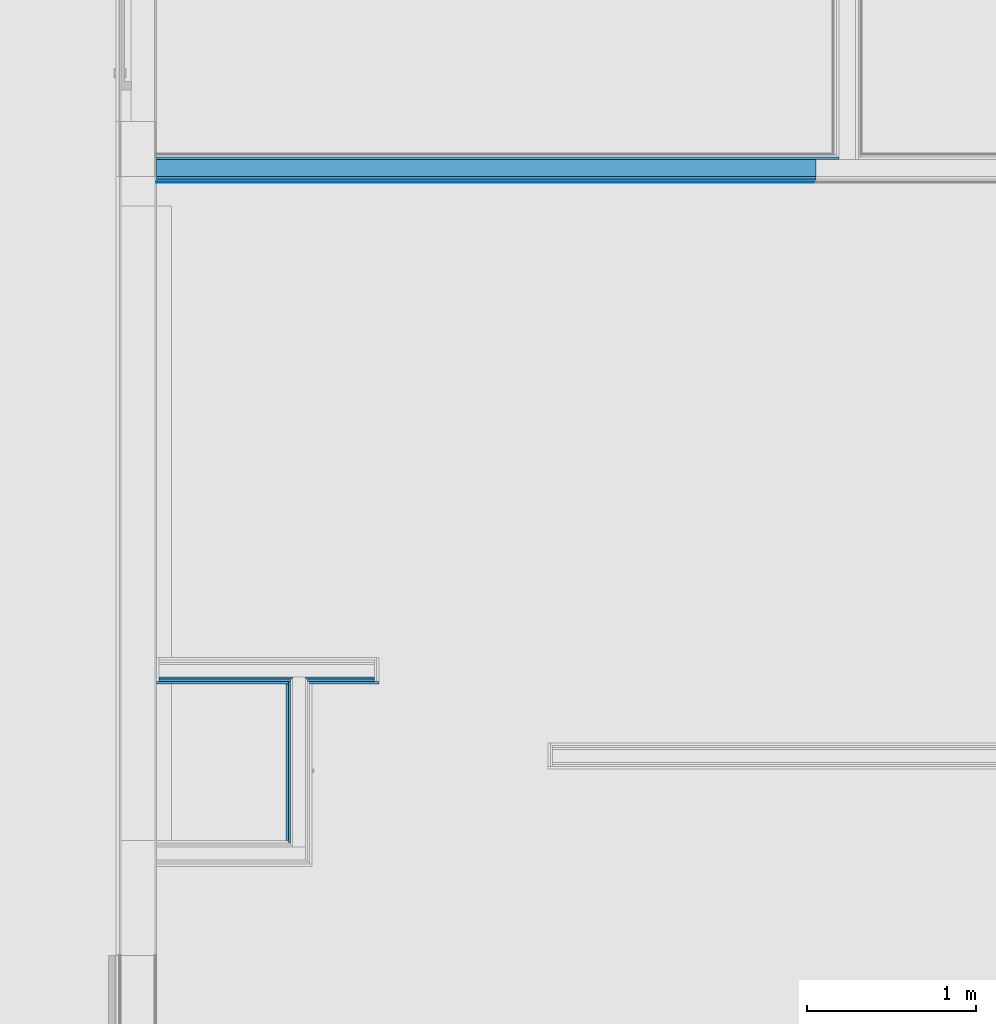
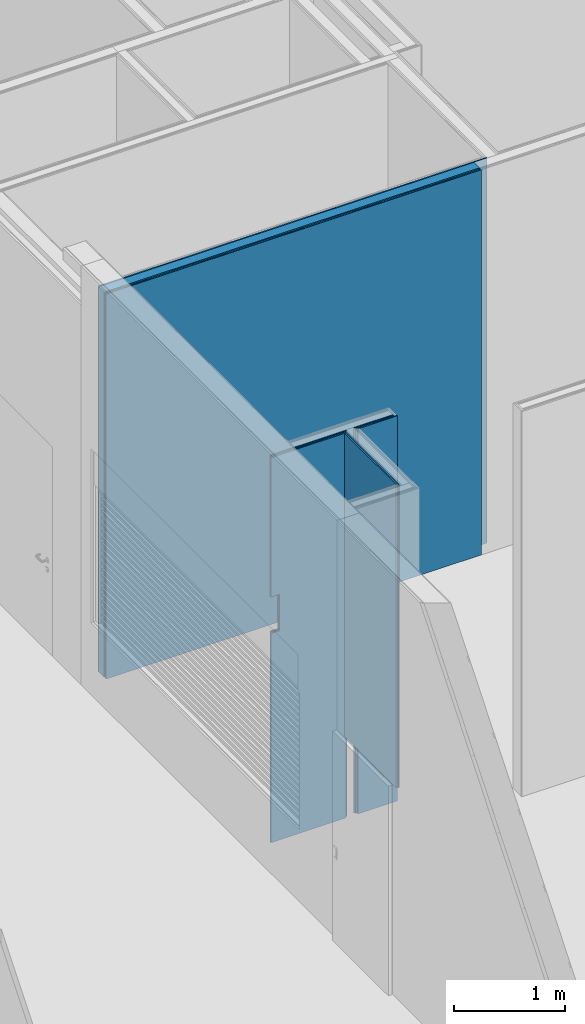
# One storey, part 187 of 260: 10 building element parts, 3 openings, 3 elements without a shape of their own.
"""IFC2X3 building model written with IfcOpenShell, lengths in millimetres."""

from ifc_helpers import new_model, entity, si_unit, converted_unit, derived_unit, money_unit, direction, frame, origin_with_axes, place, context, subcontext, project, spatial, faceted_brep, material, type_object, element, aggregate, save


model = new_model("IFC2X3")

# Units and contexts
model_context = context("Model", 3, precision=0.01, world=origin_with_axes(), true_north=direction((0.0, 1.0)))
body_context = subcontext(model_context, "Body", "Model", "MODEL_VIEW")
ifc_project = project(units=[si_unit("LENGTHUNIT", "METRE", prefix="MILLI"), si_unit("AREAUNIT", "SQUARE_METRE"), si_unit("VOLUMEUNIT", "CUBIC_METRE"), converted_unit("PLANEANGLEUNIT", "DEGREE", entity("IfcPlaneAngleMeasure", 0.0174532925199), si_unit("PLANEANGLEUNIT", "RADIAN"), dimensions=[0, 0, 0, 0, 0, 0, 0]), money_unit("EUR"), converted_unit("TIMEUNIT", "Year", entity("IfcTimeMeasure", 31556926.0), si_unit("TIMEUNIT", "SECOND"), dimensions=[0, 0, 1, 0, 0, 0, 0]), si_unit("MASSUNIT", "GRAM", prefix="KILO"), si_unit("THERMODYNAMICTEMPERATUREUNIT", "DEGREE_CELSIUS"), si_unit("LUMINOUSINTENSITYUNIT", "LUMEN"), si_unit("ENERGYUNIT", "JOULE", prefix="MEGA"), derived_unit("THERMALCONDUCTANCEUNIT", [(si_unit("POWERUNIT", "WATT"), 1), (si_unit("LENGTHUNIT", "METRE"), -1), (si_unit("THERMODYNAMICTEMPERATUREUNIT", "KELVIN"), -1)]), derived_unit("SPECIFICHEATCAPACITYUNIT", [(si_unit("ENERGYUNIT", "JOULE"), 1), (si_unit("MASSUNIT", "GRAM", prefix="KILO"), -1), (si_unit("THERMODYNAMICTEMPERATUREUNIT", "KELVIN"), -1)]), derived_unit("MASSDENSITYUNIT", [(si_unit("MASSUNIT", "GRAM", prefix="KILO"), 1), (si_unit("VOLUMEUNIT", "CUBIC_METRE"), -1)])], contexts=[model_context])

# Site, building, storey
site_placement = place(None, origin_with_axes())
site = spatial("IfcSite", under=ifc_project, at=site_placement, Name="Kolde pst 67a", CompositionType="ELEMENT")
building_placement = place(site_placement, origin_with_axes())
building = spatial("IfcBuilding", under=site, at=building_placement, Name="Riigigümnaasium", CompositionType="ELEMENT")
storey_placement = place(building_placement, origin_with_axes())
storey = spatial("IfcBuildingStorey", under=building, at=storey_placement, Name="1. korrus", CompositionType="ELEMENT", Elevation=0.0)

# Wall, building element parts
wall_type_1 = type_object("IfcWallType", Name="SS-PK-10/9_vill100+2värv 170", PredefinedType="NOTDEFINED")
wall_1_placement = place(storey_placement, frame((52829.9941222, 50890.0003787, 0.0), z_axis=(0.0, 0.0, 1.0), x_axis=(1.0, 0.0, 0.0)))
wall_1 = element("IfcWall", 1, at=wall_1_placement, inside=storey, type_object=wall_type_1, Name="Sisesein")
ifc_material_1 = material(Name="_PLAATMATERJAL - OSB3 plaat")
building_element_part_1_placement = place(wall_1_placement, origin_with_axes())
building_element_part_1 = element("IfcBuildingElementPart", 2, at=building_element_part_1_placement, material=ifc_material_1, Name="_PLAATMATERJAL - OSB3 plaat", context=body_context, shape_type="Brep", body=[
    faceted_brep([(4034.9999888, -35.0, 4230.0), (4034.9999888, -20.0, 4230.0), (0.0, -20.0, 4230.0), (0.0, -35.0, 4230.0), (4034.9999888, -35.0, 0.0), (4034.9999888, -20.0, 0.0), (0.0, -20.0, 0.0), (0.0, -35.0, 0.0)], [[[0, 1, 2, 3]], [[1, 0, 4, 5]], [[1, 5, 6, 2]], [[7, 3, 2, 6]], [[4, 0, 3, 7]], [[5, 4, 7, 6]]]),
])
ifc_material_2 = material(Name="_KARKASS - puitpruss 100x50mm vertikaalne, samm 600mm, vahel mineraalvill, helineeldetegur αw = 1.0, ISOVER ACOUSTIC 100mm või samaväärne")
building_element_part_2_placement = place(wall_1_placement, origin_with_axes())
building_element_part_2 = element("IfcBuildingElementPart", 3, at=building_element_part_2_placement, material=ifc_material_2, Name="_KARKASS - puitpruss 100x50mm vertikaalne, samm 600mm, vahel mineraalvill, helineeldetegur αw = 1.0, ISOVER ACOUSTIC 100mm või samaväärne", context=body_context, shape_type="Brep", body=[
    faceted_brep([(3899.9999888, -135.0, 4230.0), (3899.9999888, -35.0, 4230.0), (0.0, -35.0, 4230.0), (0.0, -135.0, 4230.0), (3899.9999888, -35.0, 0.0), (3899.9999888, -135.0, 0.0), (0.0, -35.0, 0.0), (0.0, -135.0, 0.0)], [[[0, 1, 2, 3]], [[4, 1, 0, 5]], [[1, 4, 6, 2]], [[7, 3, 2, 6]], [[5, 0, 3, 7]], [[4, 5, 7, 6]]]),
])
building_element_part_3_placement = place(wall_1_placement, origin_with_axes())
building_element_part_3 = element("IfcBuildingElementPart", 4, at=building_element_part_3_placement, material=ifc_material_1, Name="_PLAATMATERJAL - OSB3 plaat", context=body_context, shape_type="Brep", body=[
    faceted_brep([(3899.9999888, -150.0, 4230.0), (3899.9999888, -135.0, 4230.0), (0.0, -135.0, 4230.0), (0.0, -150.0, 4230.0), (3899.9999888, -135.0, 0.0), (3899.9999888, -150.0, 0.0), (0.0, -135.0, 0.0), (0.0, -150.0, 0.0)], [[[0, 1, 2, 3]], [[4, 1, 0, 5]], [[1, 4, 6, 2]], [[7, 3, 2, 6]], [[5, 0, 3, 7]], [[4, 5, 7, 6]]]),
])
ifc_material_3 = material(Name="_PLAATMATERJAL - tuletõkkekipsplaat, Knauf Red GKF või samaväärne")
building_element_part_4_placement = place(wall_1_placement, origin_with_axes())
building_element_part_4 = element("IfcBuildingElementPart", 5, at=building_element_part_4_placement, material=ifc_material_3, Name="_PLAATMATERJAL - tuletõkkekipsplaat, Knauf Red GKF või samaväärne", context=body_context, shape_type="Brep", body=[
    faceted_brep([(3899.9999888, -165.0, 4230.0), (3899.9999888, -150.0, 4230.0), (0.0, -150.0, 4230.0), (0.0, -165.0, 4230.0), (3899.9999888, -150.0, 0.0), (3899.9999888, -165.0, 0.0), (0.0, -150.0, 0.0), (0.0, -165.0, 0.0)], [[[0, 1, 2, 3]], [[4, 1, 0, 5]], [[1, 4, 6, 2]], [[7, 3, 2, 6]], [[5, 0, 3, 7]], [[4, 5, 7, 6]]]),
])
ifc_material_4 = material(Name="_VIIMISTLUSKIHT - viimistlus vastavalt SA osale")
building_element_part_5_placement = place(wall_1_placement, origin_with_axes())
building_element_part_5 = element("IfcBuildingElementPart", 6, at=building_element_part_5_placement, material=ifc_material_4, Name="_VIIMISTLUSKIHT - viimistlus vastavalt SA osale", context=body_context, shape_type="Brep", body=[
    faceted_brep([(3899.9999888, -170.0, 4230.0), (3899.9999888, -165.0, 4230.0), (0.0, -165.0, 4230.0), (0.0, -170.0, 4230.0), (3899.9999888, -165.0, 0.0), (3899.9999888, -170.0, 0.0), (0.0, -165.0, 0.0), (0.0, -170.0, 0.0)], [[[0, 1, 2, 3]], [[4, 1, 0, 5]], [[1, 4, 6, 2]], [[7, 3, 2, 6]], [[5, 0, 3, 7]], [[4, 5, 7, 6]]]),
])
aggregate(wall_1, [building_element_part_1, building_element_part_2, building_element_part_3, building_element_part_4, building_element_part_5])

# Wall, openings, building element parts
wall_type_2 = type_object("IfcWallType", Name="SS-MK-7,5/1_plaaditud 155", PredefinedType="NOTDEFINED")
wall_2_placement = place(storey_placement, frame((52829.9941222, 47910.1043901, 0.0), z_axis=(0.0, 0.0, 1.0), x_axis=(1.0, 0.0, 0.0)))
wall_2 = element("IfcWall", 7, at=wall_2_placement, inside=storey, type_object=wall_type_2, Name="Sisesein")
opening_1_placement = place(wall_2_placement, origin_with_axes())
element("IfcOpeningElement", 8, at=opening_1_placement, cuts=wall_2, Name="Pale", context=body_context, shape_type="Brep", body=[
    faceted_brep([(15.0, 0.0, 0.0), (0.0, 0.0, 0.0), (0.0, 0.0, 4230.00000998), (15.0, 0.0, 4230.00000998), (15.0, -140.0, 0.0), (0.0, -140.0, 0.0), (0.0, -140.0, 4230.00000998), (15.0, -140.0, 4230.00000998)], [[[0, 1, 2, 3]], [[0, 4, 5, 1]], [[1, 5, 6, 2]], [[3, 2, 6, 7]], [[4, 0, 3, 7]], [[5, 4, 7, 6]]]),
])
opening_2_placement = place(wall_2_placement, frame((1315.65217575, 0.0, 0.0), z_axis=(0.0, 0.0, 1.0), x_axis=(1.0, 0.0, 0.0)))
element("IfcOpeningElement", 9, at=opening_2_placement, cuts=wall_2, Name="Pale", context=body_context, shape_type="Brep", body=[
    faceted_brep([(-15.0, -140.0, 0.0), (0.0, -140.0, 0.0), (0.0, -140.0, 4230.00000998), (-15.0, -140.0, 4230.00000998), (-15.0, 0.0, 0.0), (0.0, 0.0, 0.0), (0.0, 0.0, 4230.00000998), (-15.0, 0.0, 4230.00000998)], [[[0, 1, 2, 3]], [[0, 4, 5, 1]], [[1, 5, 6, 2]], [[3, 2, 6, 7]], [[4, 0, 3, 7]], [[5, 4, 7, 6]]]),
    faceted_brep([(-27.5, -140.0, 0.0), (-15.0, -140.0, 0.0), (-15.0, -140.0, 4230.00000998), (-27.5, -140.0, 4230.00000998), (-27.5, -15.0, 0.0), (-15.0, -15.0, 0.0), (-15.0, -15.0, 4230.00000998), (-27.5, -15.0, 4230.00000998)], [[[0, 1, 2, 3]], [[0, 4, 5, 1]], [[1, 5, 6, 2]], [[3, 2, 6, 7]], [[4, 0, 3, 7]], [[5, 4, 7, 6]]]),
])
ifc_material_5 = material(Name="_PLAATMATERJAL - kipsplaat veekindel")
building_element_part_6_placement = place(wall_2_placement, origin_with_axes())
building_element_part_6 = element("IfcBuildingElementPart", 10, at=building_element_part_6_placement, material=ifc_material_5, Name="_PLAATMATERJAL - kipsplaat veekindel", context=body_context, shape_type="Brep", body=[
    faceted_brep([(15.0, -115.0, 2700.0), (15.0, -115.0, 4230.00000998), (805.435318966, -115.0, 4230.00000998), (805.435318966, -115.0, 0.0), (15.0, -115.0, 0.0), (15.0, -115.0, 2300.0), (90.0097005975, -115.0, 2300.0), (90.0097005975, -115.0, 2700.0), (15.0, -127.5, 4230.00000998), (15.0, -127.5, 2700.0), (805.435318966, -127.5, 4230.00000998), (805.435318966, -127.5, 0.0), (15.0, -127.5, 0.0), (15.0, -127.5, 2300.0), (90.0097005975, -127.5, 2300.0), (90.0097005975, -127.5, 2700.0)], [[[0, 1, 2, 3, 4, 5, 6, 7]], [[8, 1, 0, 9]], [[1, 8, 10, 2]], [[10, 11, 3, 2]], [[12, 4, 3, 11]], [[13, 5, 4, 12]], [[5, 13, 14, 6]], [[6, 14, 15, 7]], [[9, 0, 7, 15]], [[8, 9, 15, 14, 13, 12, 11, 10]]]),
    faceted_brep([(1288.15217575, -127.5, 4230.00000998), (1288.15217575, -115.0, 4230.00000998), (880.435318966, -115.0, 4230.00000998), (880.435318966, -127.5, 4230.00000998), (1288.15217575, -115.0, 0.0), (1288.15217575, -127.5, 0.0), (880.435318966, -115.0, 0.0), (880.435318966, -127.5, 0.0)], [[[0, 1, 2, 3]], [[4, 1, 0, 5]], [[1, 4, 6, 2]], [[6, 7, 3, 2]], [[5, 0, 3, 7]], [[4, 5, 7, 6]]]),
])
building_element_part_7_placement = place(wall_2_placement, origin_with_axes())
building_element_part_7 = element("IfcBuildingElementPart", 11, at=building_element_part_7_placement, material=ifc_material_5, Name="_PLAATMATERJAL - kipsplaat veekindel", context=body_context, shape_type="Brep", body=[
    faceted_brep([(15.0, -127.5, 2700.0), (15.0, -127.5, 4230.00000998), (792.935318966, -127.5, 4230.00000998), (792.935318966, -127.5, 0.0), (15.0, -127.5, 0.0), (15.0, -127.5, 2300.0), (90.0097005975, -127.5, 2300.0), (90.0097005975, -127.5, 2700.0), (15.0, -140.0, 4230.00000998), (15.0, -140.0, 2700.0), (792.935318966, -140.0, 4230.00000998), (792.935318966, -140.0, 0.0), (15.0, -140.0, 0.0), (15.0, -140.0, 2300.0), (90.0097005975, -140.0, 2300.0), (90.0097005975, -140.0, 2700.0)], [[[0, 1, 2, 3, 4, 5, 6, 7]], [[8, 1, 0, 9]], [[1, 8, 10, 2]], [[10, 11, 3, 2]], [[12, 4, 3, 11]], [[13, 5, 4, 12]], [[5, 13, 14, 6]], [[6, 14, 15, 7]], [[9, 0, 7, 15]], [[8, 9, 15, 14, 13, 12, 11, 10]]]),
    faceted_brep([(1288.15217575, -140.0, 4230.00000998), (1288.15217575, -127.5, 4230.00000998), (892.935318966, -127.5, 4230.00000998), (892.935318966, -140.0, 4230.00000998), (1288.15217575, -127.5, 0.0), (1288.15217575, -140.0, 0.0), (892.935318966, -127.5, 0.0), (892.935318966, -140.0, 0.0)], [[[0, 1, 2, 3]], [[4, 1, 0, 5]], [[1, 4, 6, 2]], [[6, 7, 3, 2]], [[5, 0, 3, 7]], [[4, 5, 7, 6]]]),
])
building_element_part_8_placement = place(wall_2_placement, origin_with_axes())
building_element_part_8 = element("IfcBuildingElementPart", 12, at=building_element_part_8_placement, material=ifc_material_4, Name="_VIIMISTLUSKIHT - viimistlus vastavalt SA osale", context=body_context, shape_type="Brep", body=[
    faceted_brep([(0.0, -140.0, 2300.0), (90.0097005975, -140.0, 2300.0), (90.0097005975, -140.0, 2700.0), (0.0, -140.0, 2700.0), (0.0, -140.0, 4230.00000998), (780.435318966, -140.0, 4230.00000998), (780.435318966, -140.0, 0.0), (0.0, -140.0, 0.0), (0.0, -155.0, 2300.0), (90.0097005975, -155.0, 2300.0), (90.0097005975, -155.0, 2700.0), (0.0, -155.0, 2700.0), (0.0, -155.0, 4230.00000998), (780.435318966, -155.0, 4230.00000998), (780.435318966, -155.0, 0.0), (0.0, -155.0, 0.0)], [[[0, 1, 2, 3, 4, 5, 6, 7]], [[1, 0, 8, 9]], [[2, 1, 9, 10]], [[3, 2, 10, 11]], [[3, 11, 12, 4]], [[13, 5, 4, 12]], [[5, 13, 14, 6]], [[6, 14, 15, 7]], [[8, 0, 7, 15]], [[9, 8, 15, 14, 13, 12, 11, 10]]]),
    faceted_brep([(1315.65217575, -155.0, 4230.00000998), (1315.65217575, -140.0, 4230.00000998), (905.435318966, -140.0, 4230.00000998), (905.435318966, -155.0, 4230.00000998), (1315.65217575, -155.0, 0.0), (1315.65217575, -140.0, 0.0), (905.435318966, -140.0, 0.0), (905.435318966, -155.0, 0.0)], [[[0, 1, 2, 3]], [[0, 4, 5, 1]], [[1, 5, 6, 2]], [[3, 2, 6, 7]], [[4, 0, 3, 7]], [[5, 4, 7, 6]]]),
])
aggregate(wall_2, [building_element_part_6, building_element_part_7, building_element_part_8])

# Wall, opening, building element parts
wall_3_placement = place(storey_placement, frame((53595.4294412, 46830.1043901, 0.0), z_axis=(0.0, 0.0, 1.0), x_axis=(0.0, 1.0, 0.0)))
wall_3 = element("IfcWall", 13, at=wall_3_placement, inside=storey, type_object=wall_type_2, Name="Sisesein")
opening_3_placement = place(wall_3_placement, frame((462.500005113, 0.0, 0.0), z_axis=(0.0, 0.0, 1.0), x_axis=(1.0, 0.0, 0.0)))
element("IfcOpeningElement", 14, at=opening_3_placement, cuts=wall_3, Name="Jäätmeluuk", context=body_context, shape_type="Brep", body=[
    faceted_brep([(-477.500005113, 155.0, 900.0), (-477.500005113, 155.0, 0.0), (-477.500005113, -80.0, 0.0), (-477.500005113, -80.0, 900.0), (477.500005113, 155.0, 900.0), (477.500005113, 155.0, 0.0), (477.500005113, -80.0, 0.0), (477.500005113, -80.0, 900.0)], [[[0, 1, 2, 3]], [[0, 4, 5, 1]], [[1, 5, 6, 2]], [[3, 2, 6, 7]], [[4, 0, 3, 7]], [[5, 4, 7, 6]]]),
    faceted_brep([(-477.500005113, -310.0, 0.0), (-477.500005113, -310.0, 900.0), (-477.500005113, -80.0, 900.0), (-477.500005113, -80.0, 0.0), (477.500005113, -310.0, 0.0), (477.500005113, -310.0, 900.0), (477.500005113, -80.0, 900.0), (477.500005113, -80.0, 0.0)], [[[0, 1, 2, 3]], [[0, 4, 5, 1]], [[1, 5, 6, 2]], [[3, 2, 6, 7]], [[4, 0, 3, 7]], [[5, 4, 7, 6]]]),
])
building_element_part_9_placement = place(wall_3_placement, origin_with_axes())
building_element_part_9 = element("IfcBuildingElementPart", 15, at=building_element_part_9_placement, material=ifc_material_4, Name="_VIIMISTLUSKIHT - viimistlus vastavalt SA osale", context=body_context, shape_type="Brep", body=[
    faceted_brep([(0.0, -15.0, 900.0), (925.0, -15.0, 900.0), (925.0, -15.0, 4230.00000998), (0.0, -15.0, 4230.00000998), (925.0, -3.13736663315e-05, 900.0), (-3.13736521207e-05, -3.13736663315e-05, 900.0), (925.0, 0.0, 4230.00000998), (0.0, 0.0, 4230.00000998)], [[[0, 1, 2, 3]], [[4, 1, 0, 5]], [[1, 4, 6, 2]], [[2, 6, 7, 3]], [[5, 0, 3, 7]], [[4, 5, 7, 6]]]),
])
building_element_part_10_placement = place(wall_3_placement, origin_with_axes())
building_element_part_10 = element("IfcBuildingElementPart", 16, at=building_element_part_10_placement, material=ifc_material_5, Name="_PLAATMATERJAL - kipsplaat veekindel", context=body_context, shape_type="Brep", body=[
    faceted_brep([(-15.0, -27.5, 900.0), (940.000010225, -27.5, 900.0), (940.0, -27.5, 4230.00000998), (-15.0, -27.5, 4230.00000998), (940.000010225, -15.0, 900.0), (-15.0, -15.0, 900.0), (940.0, -15.0, 4230.00000998), (-15.0, -15.0, 4230.00000998)], [[[0, 1, 2, 3]], [[4, 1, 0, 5]], [[1, 4, 6, 2]], [[2, 6, 7, 3]], [[5, 0, 3, 7]], [[4, 5, 7, 6]]]),
])
aggregate(wall_3, [building_element_part_9, building_element_part_10])

save(model, "model.ifc")
